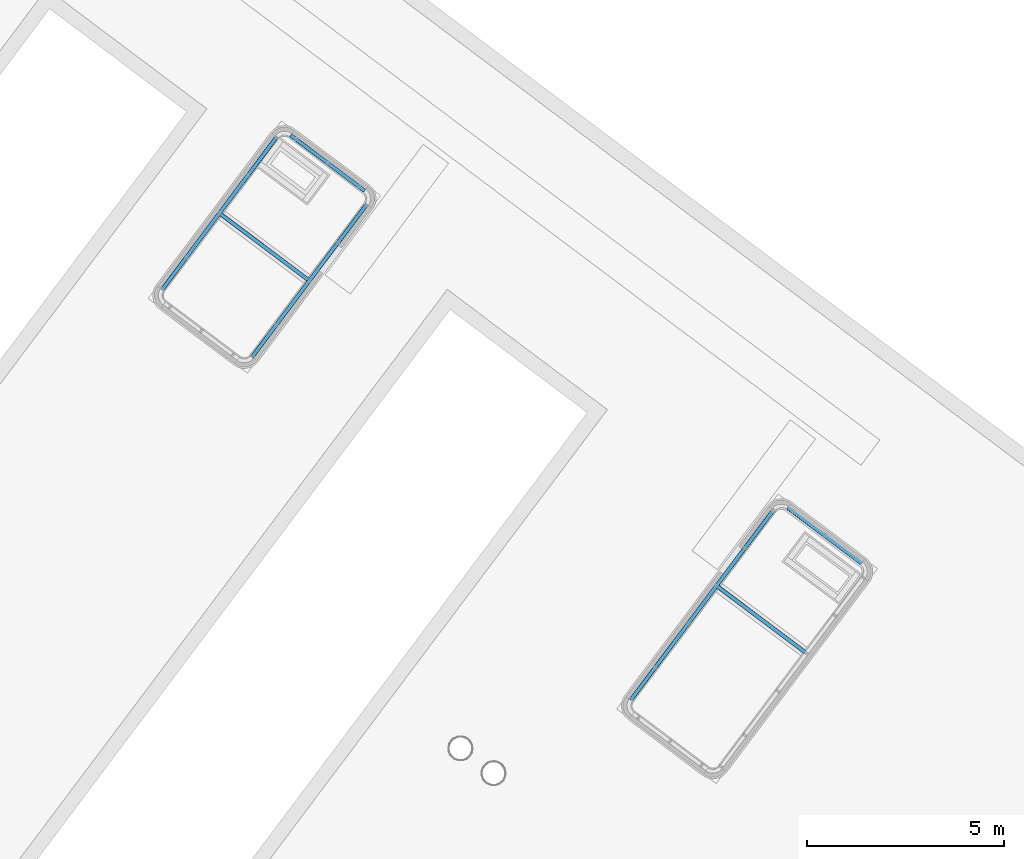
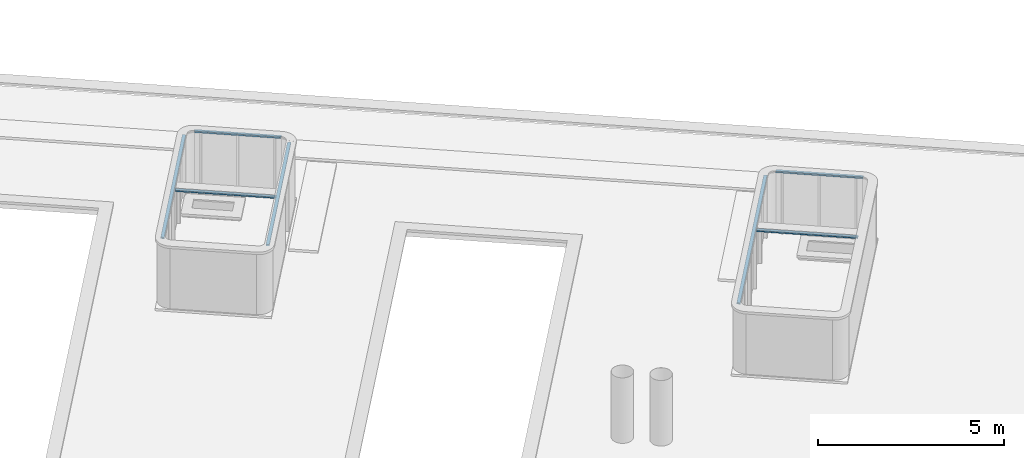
# One storey, part 15 of 28: 7 beams.
"""IFC2X3 building model written with IfcOpenShell, lengths in metres."""

from ifc_helpers import new_model, entity, si_unit, converted_unit, derived_unit, direction, frame, frame_2d, origin, place, context, subcontext, project, spatial, polyline, circle_curve, parameter, trimmed, segment, composite_curve, outline, extrude, material, type_object, element, save


model = new_model("IFC2X3")

# Units and contexts
model_context = context("Model", 3, precision=1e-05, world=origin(), true_north=direction((6.123031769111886e-17, 1.0)))
body_context = subcontext(model_context, "Body", "Model", "MODEL_VIEW")
ifc_project = project(units=[si_unit("LENGTHUNIT", "METRE"), si_unit("AREAUNIT", "SQUARE_METRE"), si_unit("VOLUMEUNIT", "CUBIC_METRE"), converted_unit("PLANEANGLEUNIT", "DEGREE", entity("IfcRatioMeasure", 0.017453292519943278), si_unit("PLANEANGLEUNIT", "RADIAN"), dimensions=[0, 0, 0, 0, 0, 0, 0]), si_unit("MASSUNIT", "GRAM", prefix="KILO"), derived_unit("MASSDENSITYUNIT", [(si_unit("MASSUNIT", "GRAM", prefix="KILO"), 1), (si_unit("LENGTHUNIT", "METRE"), -3)]), derived_unit("IONCONCENTRATIONUNIT", [(si_unit("MASSUNIT", "GRAM", prefix="KILO"), 1), (si_unit("LENGTHUNIT", "METRE"), -3)]), derived_unit("MOMENTOFINERTIAUNIT", [(si_unit("LENGTHUNIT", "METRE"), 4)]), si_unit("TIMEUNIT", "SECOND"), si_unit("FREQUENCYUNIT", "HERTZ"), si_unit("THERMODYNAMICTEMPERATUREUNIT", "DEGREE_CELSIUS"), derived_unit("THERMALTRANSMITTANCEUNIT", [(si_unit("MASSUNIT", "GRAM", prefix="KILO"), 1), (si_unit("THERMODYNAMICTEMPERATUREUNIT", "KELVIN"), -1), (si_unit("TIMEUNIT", "SECOND"), -3)]), derived_unit("THERMALCONDUCTANCEUNIT", [(si_unit("MASSUNIT", "GRAM", prefix="KILO"), 1), (si_unit("THERMODYNAMICTEMPERATUREUNIT", "KELVIN"), -1), (si_unit("TIMEUNIT", "SECOND"), -3), (si_unit("LENGTHUNIT", "METRE"), 1)]), derived_unit("VOLUMETRICFLOWRATEUNIT", [(si_unit("LENGTHUNIT", "METRE"), 3), (si_unit("TIMEUNIT", "SECOND"), -1)]), derived_unit("MASSFLOWRATEUNIT", [(si_unit("MASSUNIT", "GRAM", prefix="KILO"), 1), (si_unit("TIMEUNIT", "SECOND"), -1)]), derived_unit("ROTATIONALFREQUENCYUNIT", [(si_unit("TIMEUNIT", "SECOND"), -1)]), si_unit("ELECTRICCURRENTUNIT", "AMPERE"), si_unit("ELECTRICVOLTAGEUNIT", "VOLT"), si_unit("POWERUNIT", "WATT"), si_unit("FORCEUNIT", "NEWTON", prefix="KILO"), si_unit("ILLUMINANCEUNIT", "LUX"), si_unit("LUMINOUSFLUXUNIT", "LUMEN"), si_unit("LUMINOUSINTENSITYUNIT", "CANDELA"), derived_unit("USERDEFINED", [(si_unit("MASSUNIT", "GRAM", prefix="KILO"), -1), (si_unit("LENGTHUNIT", "METRE"), -2), (si_unit("TIMEUNIT", "SECOND"), 3), (si_unit("LUMINOUSFLUXUNIT", "LUMEN"), 1)]), derived_unit("USERDEFINED", [(si_unit("MASSUNIT", "GRAM", prefix="KILO"), 1), (si_unit("TIMEUNIT", "SECOND"), -3), (si_unit("LENGTHUNIT", "METRE"), 3), (si_unit("ELECTRICCURRENTUNIT", "AMPERE"), -2)]), derived_unit("SOUNDPOWERUNIT", [(si_unit("MASSUNIT", "GRAM", prefix="KILO"), 1), (si_unit("TIMEUNIT", "SECOND"), -3), (si_unit("LENGTHUNIT", "METRE"), 2)]), derived_unit("SOUNDPRESSUREUNIT", [(si_unit("MASSUNIT", "GRAM", prefix="KILO"), 1), (si_unit("LENGTHUNIT", "METRE"), -1), (si_unit("TIMEUNIT", "SECOND"), -2)]), derived_unit("LINEARVELOCITYUNIT", [(si_unit("LENGTHUNIT", "METRE"), 1), (si_unit("TIMEUNIT", "SECOND"), -1)]), si_unit("PRESSUREUNIT", "PASCAL"), derived_unit("USERDEFINED", [(si_unit("MASSUNIT", "GRAM", prefix="KILO"), 1), (si_unit("LENGTHUNIT", "METRE"), -2), (si_unit("TIMEUNIT", "SECOND"), -2)]), derived_unit("LINEARFORCEUNIT", [(si_unit("MASSUNIT", "GRAM", prefix="KILO"), 1), (si_unit("TIMEUNIT", "SECOND"), -2)]), derived_unit("PLANARFORCEUNIT", [(si_unit("MASSUNIT", "GRAM", prefix="KILO"), 1), (si_unit("LENGTHUNIT", "METRE"), -1), (si_unit("TIMEUNIT", "SECOND"), -2)]), derived_unit("SPECIFICHEATCAPACITYUNIT", [(si_unit("THERMODYNAMICTEMPERATUREUNIT", "KELVIN"), -1), (si_unit("LENGTHUNIT", "METRE"), 2), (si_unit("TIMEUNIT", "SECOND"), -2)]), derived_unit("HEATINGVALUEUNIT", [(si_unit("LENGTHUNIT", "METRE"), 2), (si_unit("TIMEUNIT", "SECOND"), -2)]), derived_unit("VAPORPERMEABILITYUNIT", [(si_unit("LENGTHUNIT", "METRE"), -1), (si_unit("TIMEUNIT", "SECOND"), 1)]), derived_unit("DYNAMICVISCOSITYUNIT", [(si_unit("MASSUNIT", "GRAM", prefix="KILO"), 1), (si_unit("TIMEUNIT", "SECOND"), -1), (si_unit("LENGTHUNIT", "METRE"), -1)]), derived_unit("THERMALEXPANSIONCOEFFICIENTUNIT", [(si_unit("THERMODYNAMICTEMPERATUREUNIT", "KELVIN"), -1)]), derived_unit("MODULUSOFELASTICITYUNIT", [(si_unit("MASSUNIT", "GRAM", prefix="KILO"), 1), (si_unit("LENGTHUNIT", "METRE"), -1), (si_unit("TIMEUNIT", "SECOND"), -2)]), derived_unit("ISOTHERMALMOISTURECAPACITYUNIT", [(si_unit("LENGTHUNIT", "METRE"), 3), (si_unit("MASSUNIT", "GRAM", prefix="KILO"), -1)]), derived_unit("MOISTUREDIFFUSIVITYUNIT", [(si_unit("TIMEUNIT", "SECOND"), -1), (si_unit("LENGTHUNIT", "METRE"), 2)])], contexts=[model_context])

# Site, building, storey
site_placement = place(None, frame((0.0, 0.0, 235.0), z_axis=(0.0, 0.0, 1.0), x_axis=(-0.7996477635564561, 0.6004693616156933, 0.0)))
site = spatial("IfcSite", under=ifc_project, at=site_placement, Name="Default", CompositionType="ELEMENT")
building_placement = place(site_placement, origin())
building = spatial("IfcBuilding", under=site, at=building_placement, CompositionType="ELEMENT")
storey_placement = place(building_placement, frame((0.0, 0.0, 3.400000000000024)))
storey = spatial("IfcBuildingStorey", under=building, at=storey_placement, Name="PC- Coberta STR", CompositionType="ELEMENT", Elevation=3.400000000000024)

# Beams
ifc_material = material(Name="Metal - Acero - 345 MPa")
beam_type = type_object("IfcBeamType", Name="STR- V- Acer- RHS- Rectangular- T1:100x50RHS", PredefinedType="NOTDEFINED")
beam_1_placement = place(storey_placement, frame((18.658450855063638, -37.309191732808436, 2.398404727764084), z_axis=(0.0, 0.0, 1.0), x_axis=(0.0, 1.0, 0.0)))
element("IfcBeam", 1, at=beam_1_placement, inside=storey, type_object=beam_type, material=ifc_material, Name="STR- V- Acer- RHS- Rectangular- T1:100x50RHS", ObjectType="STR- V- Acer- RHS- Rectangular- T1:100x50RHS", context=body_context, shape_type="SweptSolid", body=[
    extrude(outline(composite_curve([segment(trimmed(circle_curve(frame_2d((-0.01900000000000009, -0.04400000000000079), x_axis=(1.0, 0.0)), 0.006), [parameter(180.0000000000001)], [parameter(269.99999999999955)], True, "PARAMETER"), True, "CONTINUOUS"), segment(polyline([(-0.018999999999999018, -0.05000000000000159), (0.019000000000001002, -0.05000000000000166)]), True, "CONTINUOUS"), segment(trimmed(circle_curve(frame_2d((0.01899999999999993, -0.04400000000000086), x_axis=(1.0, 0.0)), 0.006), [parameter(269.99999999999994)], [parameter(1.0177774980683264e-13)], True, "PARAMETER"), True, "CONTINUOUS"), segment(polyline([(0.025000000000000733, -0.044000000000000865), (0.025000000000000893, 0.04399999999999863)]), True, "CONTINUOUS"), segment(trimmed(circle_curve(frame_2d((0.01900000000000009, 0.04399999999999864), x_axis=(1.0, 0.0)), 0.006), [parameter(359.9999999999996)], [parameter(89.99999999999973)], True, "PARAMETER"), True, "CONTINUOUS"), segment(polyline([(0.019000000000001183, 0.049999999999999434), (-0.01899999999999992, 0.0499999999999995)]), True, "CONTINUOUS"), segment(trimmed(circle_curve(frame_2d((-0.01899999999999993, 0.04399999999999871), x_axis=(1.0, 0.0)), 0.006), [parameter(90.00000000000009)], [parameter(180.00000000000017)], True, "PARAMETER"), True, "CONTINUOUS"), segment(polyline([(-0.02499999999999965, 0.043999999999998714), (-0.02499999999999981, -0.04400000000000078)]), True, "CONTINUOUS")], self_intersect=False), holes=[composite_curve([segment(polyline([(0.01900000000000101, -0.047000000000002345), (-0.01899999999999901, -0.047000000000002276)]), True, "CONTINUOUS"), segment(trimmed(circle_curve(frame_2d((-0.018999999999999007, -0.04400000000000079), x_axis=(1.0, 0.0)), 0.003), [parameter(179.99999999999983)], [parameter(269.9999999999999)], True, "PARAMETER"), False, "CONTINUOUS"), segment(polyline([(-0.02199999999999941, -0.04400000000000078), (-0.02199999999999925, 0.043999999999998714)]), True, "CONTINUOUS"), segment(trimmed(circle_curve(frame_2d((-0.018999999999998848, 0.04399999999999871), x_axis=(1.0, 0.0)), 0.003), [parameter(90.00000000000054)], [parameter(180.0000000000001)], True, "PARAMETER"), False, "CONTINUOUS"), segment(polyline([(-0.018999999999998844, 0.04699999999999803), (0.019000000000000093, 0.04699999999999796)]), True, "CONTINUOUS"), segment(trimmed(circle_curve(frame_2d((0.01900000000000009, 0.04399999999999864), x_axis=(1.0, 0.0)), 0.003), [parameter(0.0)], [parameter(90.00000000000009)], True, "PARAMETER"), False, "CONTINUOUS"), segment(polyline([(0.022000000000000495, 0.04399999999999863), (0.022000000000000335, -0.044000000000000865)]), True, "CONTINUOUS"), segment(trimmed(circle_curve(frame_2d((0.01899999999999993, -0.04400000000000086), x_axis=(1.0, 0.0)), 0.003), [parameter(270.00000000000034)], [parameter(5.088887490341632e-13)], True, "PARAMETER"), False, "CONTINUOUS")], self_intersect=False)]), frame((0.0, -0.05159527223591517, 0.02659527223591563), z_axis=(1.0, 0.0, 0.0), x_axis=(0.0, 0.0, 1.0)), (0.0, 0.0, 1.0), 6.036931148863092),
])
beam_2_placement = place(storey_placement, frame((16.093065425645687, -37.61085583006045, 2.4515952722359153), z_axis=(0.0, 0.0, 1.0), x_axis=(-1.0, 0.0, 0.0)))
element("IfcBeam", 2, at=beam_2_placement, inside=storey, type_object=beam_type, material=ifc_material, Name="STR- V- Acer- RHS- Rectangular- T1:100x50RHS", ObjectType="STR- V- Acer- RHS- Rectangular- T1:100x50RHS", context=body_context, shape_type="SweptSolid", body=[
    extrude(outline(composite_curve([segment(trimmed(circle_curve(frame_2d((-0.01900000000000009, -0.04400000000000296), x_axis=(1.0, 0.0)), 0.006), [parameter(180.0000000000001)], [parameter(269.99999999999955)], True, "PARAMETER"), True, "CONTINUOUS"), segment(polyline([(-0.018999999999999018, -0.05000000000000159), (0.019000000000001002, -0.05000000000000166)]), True, "CONTINUOUS"), segment(trimmed(circle_curve(frame_2d((0.01899999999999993, -0.04400000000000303), x_axis=(1.0, 0.0)), 0.006), [parameter(269.99999999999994)], [parameter(1.0177774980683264e-13)], True, "PARAMETER"), True, "CONTINUOUS"), segment(polyline([(0.025000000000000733, -0.04400000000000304), (0.025000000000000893, 0.04399999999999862)]), True, "CONTINUOUS"), segment(trimmed(circle_curve(frame_2d((0.01900000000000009, 0.043999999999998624), x_axis=(1.0, 0.0)), 0.006), [parameter(359.9999999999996)], [parameter(89.99999999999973)], True, "PARAMETER"), True, "CONTINUOUS"), segment(polyline([(0.019000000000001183, 0.049999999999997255), (-0.01899999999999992, 0.049999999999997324)]), True, "CONTINUOUS"), segment(trimmed(circle_curve(frame_2d((-0.01899999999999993, 0.04399999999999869), x_axis=(1.0, 0.0)), 0.006), [parameter(90.00000000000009)], [parameter(180.00000000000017)], True, "PARAMETER"), True, "CONTINUOUS"), segment(polyline([(-0.02499999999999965, 0.0439999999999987), (-0.02499999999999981, -0.04400000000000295)]), True, "CONTINUOUS")], self_intersect=False), holes=[composite_curve([segment(polyline([(0.01900000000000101, -0.047000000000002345), (-0.01899999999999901, -0.047000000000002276)]), True, "CONTINUOUS"), segment(trimmed(circle_curve(frame_2d((-0.018999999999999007, -0.04400000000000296), x_axis=(1.0, 0.0)), 0.003), [parameter(179.99999999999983)], [parameter(269.9999999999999)], True, "PARAMETER"), False, "CONTINUOUS"), segment(polyline([(-0.021999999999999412, -0.04400000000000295), (-0.021999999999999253, 0.04399999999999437)]), True, "CONTINUOUS"), segment(trimmed(circle_curve(frame_2d((-0.018999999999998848, 0.04399999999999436), x_axis=(1.0, 0.0)), 0.003), [parameter(90.00000000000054)], [parameter(180.0000000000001)], True, "PARAMETER"), False, "CONTINUOUS"), segment(polyline([(-0.018999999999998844, 0.046999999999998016), (0.019000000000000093, 0.046999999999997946)]), True, "CONTINUOUS"), segment(trimmed(circle_curve(frame_2d((0.01900000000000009, 0.043999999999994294), x_axis=(1.0, 0.0)), 0.003), [parameter(0.0)], [parameter(90.00000000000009)], True, "PARAMETER"), False, "CONTINUOUS"), segment(polyline([(0.02200000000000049, 0.04399999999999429), (0.022000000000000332, -0.04400000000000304)]), True, "CONTINUOUS"), segment(trimmed(circle_curve(frame_2d((0.01899999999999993, -0.04400000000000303), x_axis=(1.0, 0.0)), 0.003), [parameter(270.00000000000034)], [parameter(5.088887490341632e-13)], True, "PARAMETER"), False, "CONTINUOUS")], self_intersect=False)]), frame((-2.366886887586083, -0.05159527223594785, -0.026595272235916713), z_axis=(1.0, 0.0, 0.0), x_axis=(0.0, 0.0, 1.0)), (0.0, 0.0, 1.0), 2.366886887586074),
])
beam_3_placement = place(storey_placement, frame((15.91004605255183, -34.94585585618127, 2.2984047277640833)))
element("IfcBeam", 3, at=beam_3_placement, inside=storey, type_object=beam_type, material=ifc_material, Name="STR- V- Acer- RHS- Rectangular- T1:100x50RHS", ObjectType="STR- V- Acer- RHS- Rectangular- T1:100x50RHS", context=body_context, shape_type="SweptSolid", body=[
    extrude(outline(composite_curve([segment(polyline([(-0.044000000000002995, -0.02499999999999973), (0.043999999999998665, -0.02499999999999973)]), True, "CONTINUOUS"), segment(trimmed(circle_curve(frame_2d((0.043999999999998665, -0.01900000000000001), x_axis=(0.0, 1.0)), 0.006), [parameter(179.99999999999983)], [parameter(269.9999999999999)], True, "PARAMETER"), True, "CONTINUOUS"), segment(polyline([(0.0499999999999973, -0.01900000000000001), (0.0499999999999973, 0.0190000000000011)]), True, "CONTINUOUS"), segment(trimmed(circle_curve(frame_2d((0.043999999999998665, 0.01900000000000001), x_axis=(0.0, 1.0)), 0.006), [parameter(270.0000000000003)], [parameter(4.0711099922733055e-13)], True, "PARAMETER"), True, "CONTINUOUS"), segment(polyline([(0.043999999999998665, 0.025000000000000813), (-0.044000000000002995, 0.025000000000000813)]), True, "CONTINUOUS"), segment(trimmed(circle_curve(frame_2d((-0.044000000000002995, 0.01900000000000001), x_axis=(0.0, 1.0)), 0.006), [parameter(359.9999999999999)], [parameter(90.00000000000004)], True, "PARAMETER"), True, "CONTINUOUS"), segment(polyline([(-0.05000000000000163, 0.0190000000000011), (-0.05000000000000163, -0.018999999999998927)]), True, "CONTINUOUS"), segment(trimmed(circle_curve(frame_2d((-0.044000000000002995, -0.01900000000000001), x_axis=(0.0, 1.0)), 0.006), [parameter(90.00000000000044)], [parameter(179.9999999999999)], True, "PARAMETER"), True, "CONTINUOUS")], self_intersect=False), holes=[composite_curve([segment(trimmed(circle_curve(frame_2d((-0.044000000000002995, 0.01900000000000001), x_axis=(0.0, 1.0)), 0.003), [parameter(359.9999999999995)], [parameter(89.99999999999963)], True, "PARAMETER"), False, "CONTINUOUS"), segment(polyline([(-0.044000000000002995, 0.022000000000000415), (0.04399999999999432, 0.022000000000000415)]), True, "CONTINUOUS"), segment(trimmed(circle_curve(frame_2d((0.04399999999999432, 0.01900000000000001), x_axis=(0.0, 1.0)), 0.003), [parameter(269.9999999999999)], [parameter(0.0)], True, "PARAMETER"), False, "CONTINUOUS"), segment(polyline([(0.046999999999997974, 0.01900000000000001), (0.046999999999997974, -0.018999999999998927)]), True, "CONTINUOUS"), segment(trimmed(circle_curve(frame_2d((0.04399999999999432, -0.018999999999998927), x_axis=(0.0, 1.0)), 0.003), [parameter(179.9999999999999)], [parameter(269.99999999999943)], True, "PARAMETER"), False, "CONTINUOUS"), segment(polyline([(0.04399999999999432, -0.02199999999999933), (-0.044000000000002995, -0.02199999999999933)]), True, "CONTINUOUS"), segment(trimmed(circle_curve(frame_2d((-0.044000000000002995, -0.018999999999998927), x_axis=(0.0, 1.0)), 0.003), [parameter(90.00000000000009)], [parameter(180.00000000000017)], True, "PARAMETER"), False, "CONTINUOUS"), segment(polyline([(-0.04700000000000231, -0.018999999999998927), (-0.04700000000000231, 0.0190000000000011)]), True, "CONTINUOUS")], self_intersect=False)]), frame((0.0, 0.05159527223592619, 0.026595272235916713), z_axis=(1.0, 0.0, 0.0), x_axis=(0.0, 1.0, 0.0)), (0.0, 0.0, 1.0), 2.7500000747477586),
])
beam_4_placement = place(storey_placement, frame((34.40859017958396, -37.30519175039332, 2.3984047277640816), z_axis=(0.0, 0.0, 1.0), x_axis=(0.0, 1.0, 0.0)))
element("IfcBeam", 4, at=beam_4_placement, inside=storey, type_object=beam_type, material=ifc_material, Name="STR- V- Acer- RHS- Rectangular- T1:100x50RHS", ObjectType="STR- V- Acer- RHS- Rectangular- T1:100x50RHS", context=body_context, shape_type="SweptSolid", body=[
    extrude(outline(composite_curve([segment(trimmed(circle_curve(frame_2d((-0.019000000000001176, -0.043999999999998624), x_axis=(1.0, 0.0)), 0.006), [parameter(180.0000000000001)], [parameter(269.99999999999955)], True, "PARAMETER"), True, "CONTINUOUS"), segment(polyline([(-0.0190000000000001, -0.049999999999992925), (0.01899999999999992, -0.049999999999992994)]), True, "CONTINUOUS"), segment(trimmed(circle_curve(frame_2d((0.018999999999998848, -0.04399999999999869), x_axis=(1.0, 0.0)), 0.006), [parameter(269.99999999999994)], [parameter(1.0177774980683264e-13)], True, "PARAMETER"), True, "CONTINUOUS"), segment(polyline([(0.02499999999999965, -0.04399999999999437), (0.02499999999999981, 0.044000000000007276)]), True, "CONTINUOUS"), segment(trimmed(circle_curve(frame_2d((0.018999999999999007, 0.04400000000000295), x_axis=(1.0, 0.0)), 0.006), [parameter(359.9999999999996)], [parameter(89.99999999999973)], True, "PARAMETER"), True, "CONTINUOUS"), segment(polyline([(0.0190000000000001, 0.050000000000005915), (-0.019000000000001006, 0.050000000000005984)]), True, "CONTINUOUS"), segment(trimmed(circle_curve(frame_2d((-0.019000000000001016, 0.04400000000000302), x_axis=(1.0, 0.0)), 0.006), [parameter(90.00000000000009)], [parameter(180.00000000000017)], True, "PARAMETER"), True, "CONTINUOUS"), segment(polyline([(-0.025000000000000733, 0.04400000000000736), (-0.025000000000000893, -0.04399999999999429)]), True, "CONTINUOUS")], self_intersect=False), holes=[composite_curve([segment(polyline([(0.018999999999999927, -0.04699999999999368), (-0.019000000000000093, -0.04699999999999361)]), True, "CONTINUOUS"), segment(trimmed(circle_curve(frame_2d((-0.01900000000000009, -0.043999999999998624), x_axis=(1.0, 0.0)), 0.003), [parameter(179.99999999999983)], [parameter(269.9999999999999)], True, "PARAMETER"), False, "CONTINUOUS"), segment(polyline([(-0.02200000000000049, -0.04399999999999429), (-0.022000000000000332, 0.04400000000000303)]), True, "CONTINUOUS"), segment(trimmed(circle_curve(frame_2d((-0.01899999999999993, 0.04399999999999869), x_axis=(1.0, 0.0)), 0.003), [parameter(90.00000000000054)], [parameter(180.0000000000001)], True, "PARAMETER"), False, "CONTINUOUS"), segment(polyline([(-0.018999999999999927, 0.047000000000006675), (0.01899999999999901, 0.047000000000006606)]), True, "CONTINUOUS"), segment(trimmed(circle_curve(frame_2d((0.018999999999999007, 0.043999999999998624), x_axis=(1.0, 0.0)), 0.003), [parameter(0.0)], [parameter(90.00000000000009)], True, "PARAMETER"), False, "CONTINUOUS"), segment(polyline([(0.021999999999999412, 0.044000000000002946), (0.021999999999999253, -0.04399999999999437)]), True, "CONTINUOUS"), segment(trimmed(circle_curve(frame_2d((0.018999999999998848, -0.04399999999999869), x_axis=(1.0, 0.0)), 0.003), [parameter(270.00000000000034)], [parameter(5.088887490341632e-13)], True, "PARAMETER"), False, "CONTINUOUS")], self_intersect=False)]), frame((0.0, -0.05159527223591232, 0.02659527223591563), z_axis=(1.0, 0.0, 0.0), x_axis=(0.0, 0.0, 1.0)), (0.0, 0.0, 1.0), 4.846999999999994),
])
beam_5_placement = place(storey_placement, frame((31.859195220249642, -37.59678699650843, 2.451595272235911), z_axis=(0.0, 0.0, 1.0), x_axis=(-1.0, 0.0, 0.0)))
element("IfcBeam", 5, at=beam_5_placement, inside=storey, type_object=beam_type, material=ifc_material, Name="STR- V- Acer- RHS- Rectangular- T1:100x50RHS", ObjectType="STR- V- Acer- RHS- Rectangular- T1:100x50RHS", context=body_context, shape_type="SweptSolid", body=[
    extrude(outline(composite_curve([segment(trimmed(circle_curve(frame_2d((-0.019000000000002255, -0.04400000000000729), x_axis=(1.0, 0.0)), 0.006), [parameter(180.0000000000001)], [parameter(269.99999999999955)], True, "PARAMETER"), True, "CONTINUOUS"), segment(polyline([(-0.0190000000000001, -0.05000000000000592), (0.018999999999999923, -0.05000000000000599)]), True, "CONTINUOUS"), segment(trimmed(circle_curve(frame_2d((0.018999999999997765, -0.04400000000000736), x_axis=(1.0, 0.0)), 0.006), [parameter(269.99999999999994)], [parameter(1.0177774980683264e-13)], True, "PARAMETER"), True, "CONTINUOUS"), segment(polyline([(0.02499999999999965, -0.04400000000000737), (0.02499999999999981, 0.043999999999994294)]), True, "CONTINUOUS"), segment(trimmed(circle_curve(frame_2d((0.018999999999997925, 0.0439999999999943), x_axis=(1.0, 0.0)), 0.006), [parameter(359.9999999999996)], [parameter(89.99999999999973)], True, "PARAMETER"), True, "CONTINUOUS"), segment(polyline([(0.019000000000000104, 0.04999999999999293), (-0.019000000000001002, 0.049999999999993)]), True, "CONTINUOUS"), segment(trimmed(circle_curve(frame_2d((-0.019000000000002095, 0.04399999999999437), x_axis=(1.0, 0.0)), 0.006), [parameter(90.00000000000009)], [parameter(180.00000000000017)], True, "PARAMETER"), True, "CONTINUOUS"), segment(polyline([(-0.025000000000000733, 0.04399999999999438), (-0.025000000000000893, -0.04400000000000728)]), True, "CONTINUOUS")], self_intersect=False), holes=[composite_curve([segment(polyline([(0.01899999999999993, -0.047000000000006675), (-0.019000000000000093, -0.047000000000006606)]), True, "CONTINUOUS"), segment(trimmed(circle_curve(frame_2d((-0.019000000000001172, -0.04400000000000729), x_axis=(1.0, 0.0)), 0.003), [parameter(179.99999999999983)], [parameter(269.9999999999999)], True, "PARAMETER"), False, "CONTINUOUS"), segment(polyline([(-0.022000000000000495, -0.04400000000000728), (-0.022000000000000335, 0.04399999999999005)]), True, "CONTINUOUS"), segment(trimmed(circle_curve(frame_2d((-0.019000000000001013, 0.04399999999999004), x_axis=(1.0, 0.0)), 0.003), [parameter(90.00000000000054)], [parameter(180.0000000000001)], True, "PARAMETER"), False, "CONTINUOUS"), segment(polyline([(-0.018999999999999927, 0.04699999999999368), (0.01899999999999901, 0.04699999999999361)]), True, "CONTINUOUS"), segment(trimmed(circle_curve(frame_2d((0.018999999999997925, 0.04399999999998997), x_axis=(1.0, 0.0)), 0.003), [parameter(0.0)], [parameter(90.00000000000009)], True, "PARAMETER"), False, "CONTINUOUS"), segment(polyline([(0.02199999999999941, 0.043999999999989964), (0.02199999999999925, -0.04400000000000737)]), True, "CONTINUOUS"), segment(trimmed(circle_curve(frame_2d((0.018999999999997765, -0.04400000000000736), x_axis=(1.0, 0.0)), 0.003), [parameter(270.00000000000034)], [parameter(5.088887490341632e-13)], True, "PARAMETER"), False, "CONTINUOUS")], self_intersect=False)]), frame((-2.350886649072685, -0.05159527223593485, -0.026595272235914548), z_axis=(1.0, 0.0, 0.0), x_axis=(0.0, 0.0, 1.0)), (0.0, 0.0, 1.0), 2.3508866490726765),
])
beam_6_placement = place(storey_placement, frame((31.558590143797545, -37.3051917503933, 2.3984047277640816), z_axis=(0.0, 0.0, 1.0), x_axis=(0.0, 1.0, 0.0)))
element("IfcBeam", 6, at=beam_6_placement, inside=storey, type_object=beam_type, material=ifc_material, Name="STR- V- Acer- RHS- Rectangular- T1:100x50RHS", ObjectType="STR- V- Acer- RHS- Rectangular- T1:100x50RHS", context=body_context, shape_type="SweptSolid", body=[
    extrude(outline(composite_curve([segment(polyline([(-0.044000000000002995, -0.025000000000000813), (0.04399999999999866, -0.025000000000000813)]), True, "CONTINUOUS"), segment(trimmed(circle_curve(frame_2d((0.04399999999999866, -0.019000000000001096), x_axis=(0.0, 1.0)), 0.006), [parameter(179.99999999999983)], [parameter(269.9999999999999)], True, "PARAMETER"), True, "CONTINUOUS"), segment(polyline([(0.0499999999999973, -0.019000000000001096), (0.0499999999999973, 0.01900000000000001)]), True, "CONTINUOUS"), segment(trimmed(circle_curve(frame_2d((0.04399999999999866, 0.018999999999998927), x_axis=(0.0, 1.0)), 0.006), [parameter(270.0000000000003)], [parameter(4.0711099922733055e-13)], True, "PARAMETER"), True, "CONTINUOUS"), segment(polyline([(0.04399999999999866, 0.02499999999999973), (-0.044000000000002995, 0.02499999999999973)]), True, "CONTINUOUS"), segment(trimmed(circle_curve(frame_2d((-0.044000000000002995, 0.018999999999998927), x_axis=(0.0, 1.0)), 0.006), [parameter(359.9999999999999)], [parameter(90.00000000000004)], True, "PARAMETER"), True, "CONTINUOUS"), segment(polyline([(-0.050000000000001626, 0.01900000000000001), (-0.050000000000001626, -0.01900000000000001)]), True, "CONTINUOUS"), segment(trimmed(circle_curve(frame_2d((-0.044000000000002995, -0.019000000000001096), x_axis=(0.0, 1.0)), 0.006), [parameter(90.00000000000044)], [parameter(179.9999999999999)], True, "PARAMETER"), True, "CONTINUOUS")], self_intersect=False), holes=[composite_curve([segment(trimmed(circle_curve(frame_2d((-0.044000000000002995, 0.018999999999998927), x_axis=(0.0, 1.0)), 0.003), [parameter(359.9999999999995)], [parameter(89.99999999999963)], True, "PARAMETER"), False, "CONTINUOUS"), segment(polyline([(-0.044000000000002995, 0.021999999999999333), (0.04399999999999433, 0.021999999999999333)]), True, "CONTINUOUS"), segment(trimmed(circle_curve(frame_2d((0.04399999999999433, 0.018999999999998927), x_axis=(0.0, 1.0)), 0.003), [parameter(269.9999999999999)], [parameter(0.0)], True, "PARAMETER"), False, "CONTINUOUS"), segment(polyline([(0.04699999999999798, 0.018999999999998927), (0.04699999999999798, -0.01900000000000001)]), True, "CONTINUOUS"), segment(trimmed(circle_curve(frame_2d((0.04399999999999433, -0.01900000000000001), x_axis=(0.0, 1.0)), 0.003), [parameter(179.9999999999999)], [parameter(269.99999999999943)], True, "PARAMETER"), False, "CONTINUOUS"), segment(polyline([(0.04399999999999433, -0.02200000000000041), (-0.044000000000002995, -0.02200000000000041)]), True, "CONTINUOUS"), segment(trimmed(circle_curve(frame_2d((-0.044000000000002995, -0.01900000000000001), x_axis=(0.0, 1.0)), 0.003), [parameter(90.00000000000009)], [parameter(180.00000000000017)], True, "PARAMETER"), False, "CONTINUOUS"), segment(polyline([(-0.04700000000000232, -0.01900000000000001), (-0.04700000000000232, 0.01900000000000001)]), True, "CONTINUOUS")], self_intersect=False)]), frame((0.0, -0.051595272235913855, 0.02659527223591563), z_axis=(1.0, 0.0, 0.0), x_axis=(0.0, 1.0, 0.0)), (0.0, 0.0, 1.0), 4.846999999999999),
])
beam_7_placement = place(storey_placement, frame((31.660185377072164, -34.93178702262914, 2.2984047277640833)))
element("IfcBeam", 7, at=beam_7_placement, inside=storey, type_object=beam_type, material=ifc_material, Name="STR- V- Acer- RHS- Rectangular- T1:100x50RHS", ObjectType="STR- V- Acer- RHS- Rectangular- T1:100x50RHS", context=body_context, shape_type="SweptSolid", body=[
    extrude(outline(composite_curve([segment(polyline([(-0.044000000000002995, -0.02499999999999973), (0.043999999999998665, -0.02499999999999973)]), True, "CONTINUOUS"), segment(trimmed(circle_curve(frame_2d((0.043999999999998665, -0.01900000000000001), x_axis=(0.0, 1.0)), 0.006), [parameter(179.99999999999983)], [parameter(269.9999999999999)], True, "PARAMETER"), True, "CONTINUOUS"), segment(polyline([(0.0499999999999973, -0.01900000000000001), (0.0499999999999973, 0.0190000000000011)]), True, "CONTINUOUS"), segment(trimmed(circle_curve(frame_2d((0.043999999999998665, 0.01900000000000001), x_axis=(0.0, 1.0)), 0.006), [parameter(270.0000000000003)], [parameter(4.0711099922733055e-13)], True, "PARAMETER"), True, "CONTINUOUS"), segment(polyline([(0.043999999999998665, 0.025000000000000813), (-0.044000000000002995, 0.025000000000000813)]), True, "CONTINUOUS"), segment(trimmed(circle_curve(frame_2d((-0.044000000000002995, 0.01900000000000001), x_axis=(0.0, 1.0)), 0.006), [parameter(359.9999999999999)], [parameter(90.00000000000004)], True, "PARAMETER"), True, "CONTINUOUS"), segment(polyline([(-0.050000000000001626, 0.0190000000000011), (-0.050000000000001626, -0.018999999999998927)]), True, "CONTINUOUS"), segment(trimmed(circle_curve(frame_2d((-0.044000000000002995, -0.01900000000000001), x_axis=(0.0, 1.0)), 0.006), [parameter(90.00000000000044)], [parameter(179.9999999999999)], True, "PARAMETER"), True, "CONTINUOUS")], self_intersect=False), holes=[composite_curve([segment(trimmed(circle_curve(frame_2d((-0.044000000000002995, 0.01900000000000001), x_axis=(0.0, 1.0)), 0.003), [parameter(359.9999999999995)], [parameter(89.99999999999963)], True, "PARAMETER"), False, "CONTINUOUS"), segment(polyline([(-0.044000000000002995, 0.022000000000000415), (0.043999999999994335, 0.022000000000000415)]), True, "CONTINUOUS"), segment(trimmed(circle_curve(frame_2d((0.043999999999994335, 0.01900000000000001), x_axis=(0.0, 1.0)), 0.003), [parameter(269.9999999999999)], [parameter(0.0)], True, "PARAMETER"), False, "CONTINUOUS"), segment(polyline([(0.046999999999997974, 0.01900000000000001), (0.046999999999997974, -0.018999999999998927)]), True, "CONTINUOUS"), segment(trimmed(circle_curve(frame_2d((0.043999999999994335, -0.018999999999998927), x_axis=(0.0, 1.0)), 0.003), [parameter(179.9999999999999)], [parameter(269.99999999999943)], True, "PARAMETER"), False, "CONTINUOUS"), segment(polyline([(0.043999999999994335, -0.02199999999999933), (-0.044000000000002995, -0.02199999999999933)]), True, "CONTINUOUS"), segment(trimmed(circle_curve(frame_2d((-0.044000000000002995, -0.018999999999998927), x_axis=(0.0, 1.0)), 0.003), [parameter(90.00000000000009)], [parameter(180.00000000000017)], True, "PARAMETER"), False, "CONTINUOUS"), segment(polyline([(-0.04700000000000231, -0.018999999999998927), (-0.04700000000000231, 0.0190000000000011)]), True, "CONTINUOUS")], self_intersect=False)]), frame((0.0, 0.05159527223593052, 0.026595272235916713), z_axis=(1.0, 0.0, 0.0), x_axis=(0.0, 1.0, 0.0)), (0.0, 0.0, 1.0), 2.7500000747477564),
])

save(model, "model.ifc")
